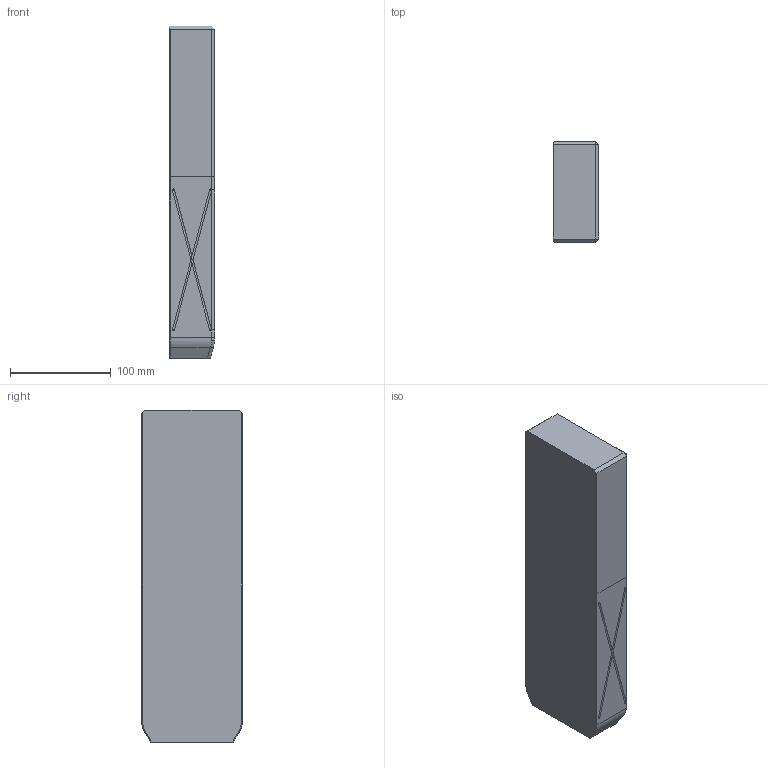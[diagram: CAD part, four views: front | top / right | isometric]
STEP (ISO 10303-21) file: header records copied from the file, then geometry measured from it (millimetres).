
FILE_DESCRIPTION((''),'2;1');
FILE_NAME('','2010-08-30T17:54:15+09:00',('misumi'),(''),'M/STEP i/f 1R2-14','CADmeister v5.1','');
FILE_SCHEMA(('AUTOMOTIVE_DESIGN'));
Length unit declared in the file: millimetre
Products named in the file (1): GW100-180-330
Bounding box: 45 x 100 x 330 mm (x, y, z)
Volume: 1467295.7 mm3; surface area: 103726.8 mm2
Topology: 1 solids, 1 shells, 74 faces, 199 edges, 117 vertices
Faces by surface type: plane 37, cylinder 17, revolution 12, bspline 6, cone 2
Entity records: 3487 total; most frequent: CARTESIAN_POINT 817, ORIENTED_EDGE 374, DIRECTION 353, COLOUR_RGB 202, CURVE_STYLE 195, PRESENTATION_STYLE_ASSIGNMENT 194, OVER_RIDING_STYLED_ITEM 193, EDGE_CURVE 187
